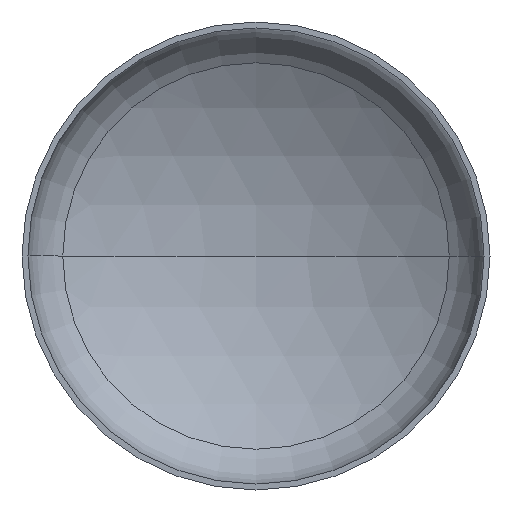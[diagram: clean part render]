
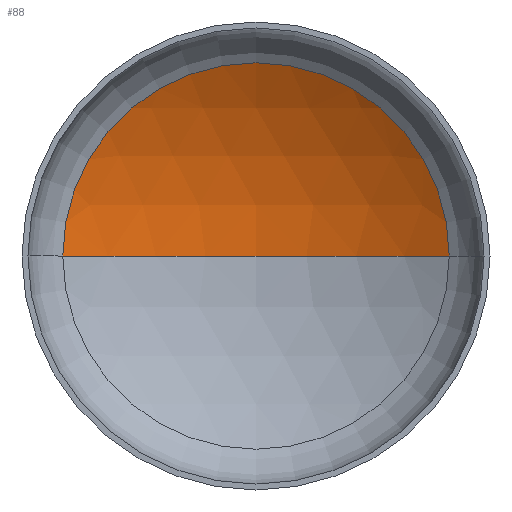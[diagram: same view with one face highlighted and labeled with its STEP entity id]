
A CAD part, front view. The second image highlights one B-rep face of the part: STEP entity #88.
In plain terms, the highlighted spherical face has radius 3040 mm.
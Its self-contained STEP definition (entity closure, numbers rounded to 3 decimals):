
#29 = AXIS2_PLACEMENT_3D ( 'NONE', #123, #128, #260 ) ;
#38 = AXIS2_PLACEMENT_3D ( 'NONE', #153, #306, #155 ) ;
#47 = ORIENTED_EDGE ( 'NONE', *, *, #324, .T. ) ;
#50 = VERTEX_POINT ( 'NONE', #248 ) ;
#51 = VERTEX_POINT ( 'NONE', #286 ) ;
#55 = ORIENTED_EDGE ( 'NONE', *, *, #390, .F. ) ;
#75 = VERTEX_POINT ( 'NONE', #262 ) ;
#88 = ADVANCED_FACE ( 'NONE', ( #245 ), #317, .F. ) ;
#97 = AXIS2_PLACEMENT_3D ( 'NONE', #236, #246, #219 ) ;
#101 = ORIENTED_EDGE ( 'NONE', *, *, #333, .T. ) ;
#123 = CARTESIAN_POINT ( 'NONE',  ( 0., -1952.792, 0. ) ) ;
#128 = DIRECTION ( 'NONE',  ( 0., 0., -1. ) ) ;
#153 = CARTESIAN_POINT ( 'NONE',  ( 0., 651.073, 0. ) ) ;
#155 = DIRECTION ( 'NONE',  ( 1., 0., 0. ) ) ;
#183 = CARTESIAN_POINT ( 'NONE',  ( 0., -1952.792, 0. ) ) ;
#195 = CIRCLE ( 'NONE', #29, 3040. ) ;
#209 = DIRECTION ( 'NONE',  ( 1., 0., 0. ) ) ;
#219 = DIRECTION ( 'NONE',  ( -1., 0., 0. ) ) ;
#235 = CIRCLE ( 'NONE', #349, 3040. ) ;
#236 = CARTESIAN_POINT ( 'NONE',  ( 0., -1952.792, 0. ) ) ;
#245 = FACE_OUTER_BOUND ( 'NONE', #393, .T. ) ;
#246 = DIRECTION ( 'NONE',  ( 0., 0., -1. ) ) ;
#248 = CARTESIAN_POINT ( 'NONE',  ( -1568.912, 651.073, 0. ) ) ;
#260 = DIRECTION ( 'NONE',  ( -1., 0., 0. ) ) ;
#262 = CARTESIAN_POINT ( 'NONE',  ( 1568.912, 651.073, 0. ) ) ;
#286 = CARTESIAN_POINT ( 'NONE',  ( 0., 1087.208, 0. ) ) ;
#306 = DIRECTION ( 'NONE',  ( 0., -1., 0. ) ) ;
#317 = SPHERICAL_SURFACE ( 'NONE', #97, 3040. ) ;
#324 = EDGE_CURVE ( 'NONE', #75, #50, #388, .T. ) ;
#333 = EDGE_CURVE ( 'NONE', #51, #75, #195, .T. ) ;
#349 = AXIS2_PLACEMENT_3D ( 'NONE', #183, #356, #209 ) ;
#356 = DIRECTION ( 'NONE',  ( 0., 0., 1. ) ) ;
#388 = CIRCLE ( 'NONE', #38, 1568.912 ) ;
#390 = EDGE_CURVE ( 'NONE', #51, #50, #235, .T. ) ;
#393 = EDGE_LOOP ( 'NONE', ( #55, #101, #47 ) ) ;
